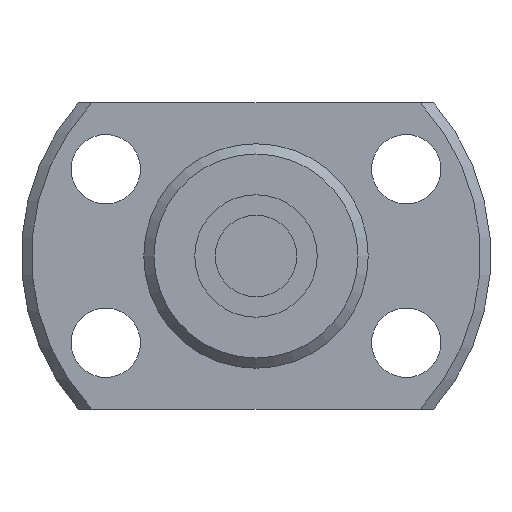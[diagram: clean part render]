
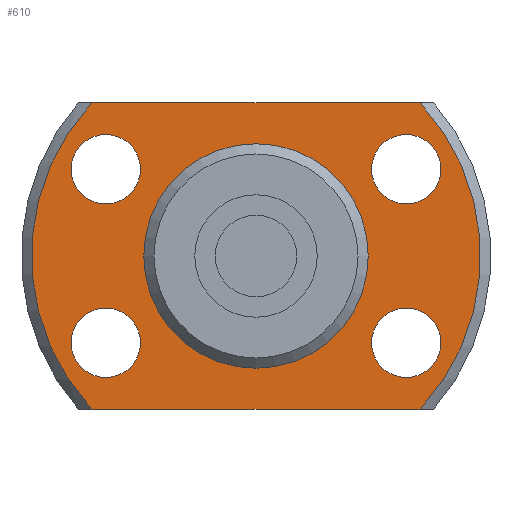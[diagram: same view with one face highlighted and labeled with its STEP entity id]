
A CAD part, left-side view. The second image highlights one B-rep face of the part: STEP entity #610.
In plain terms, the highlighted planar face has unit normal (-1, 0, 0) as drawn and (1, 0, 0) by its records, which use the part's own axes.
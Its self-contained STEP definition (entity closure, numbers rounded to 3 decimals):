
#59=LINE('',#1081,#75);
#60=LINE('',#1083,#76);
#75=VECTOR('',#895,1000.);
#76=VECTOR('',#896,1000.);
#186=ORIENTED_EDGE('',*,*,#285,.T.);
#187=ORIENTED_EDGE('',*,*,#263,.T.);
#188=ORIENTED_EDGE('',*,*,#286,.T.);
#189=ORIENTED_EDGE('',*,*,#287,.T.);
#190=ORIENTED_EDGE('',*,*,#288,.F.);
#191=ORIENTED_EDGE('',*,*,#289,.F.);
#192=ORIENTED_EDGE('',*,*,#290,.F.);
#193=ORIENTED_EDGE('',*,*,#291,.F.);
#194=ORIENTED_EDGE('',*,*,#284,.F.);
#263=EDGE_CURVE('',#325,#327,#377,.T.);
#284=EDGE_CURVE('',#346,#346,#392,.T.);
#285=EDGE_CURVE('',#347,#325,#59,.T.);
#286=EDGE_CURVE('',#327,#348,#60,.T.);
#287=EDGE_CURVE('',#348,#347,#393,.T.);
#288=EDGE_CURVE('',#349,#349,#394,.T.);
#289=EDGE_CURVE('',#350,#350,#395,.T.);
#290=EDGE_CURVE('',#351,#351,#396,.T.);
#291=EDGE_CURVE('',#352,#352,#397,.T.);
#325=VERTEX_POINT('',#1016);
#327=VERTEX_POINT('',#1023);
#346=VERTEX_POINT('',#1079);
#347=VERTEX_POINT('',#1082);
#348=VERTEX_POINT('',#1084);
#349=VERTEX_POINT('',#1087);
#350=VERTEX_POINT('',#1089);
#351=VERTEX_POINT('',#1091);
#352=VERTEX_POINT('',#1093);
#377=CIRCLE('',#693,11.);
#392=CIRCLE('',#717,5.3);
#393=CIRCLE('',#719,11.);
#394=CIRCLE('',#720,1.7);
#395=CIRCLE('',#721,1.7);
#396=CIRCLE('',#722,1.7);
#397=CIRCLE('',#723,1.7);
#460=EDGE_LOOP('',(#186,#187,#188,#189));
#461=EDGE_LOOP('',(#190));
#462=EDGE_LOOP('',(#191));
#463=EDGE_LOOP('',(#192));
#464=EDGE_LOOP('',(#193));
#465=EDGE_LOOP('',(#194));
#540=FACE_BOUND('',#460,.T.);
#541=FACE_BOUND('',#461,.T.);
#542=FACE_BOUND('',#462,.T.);
#543=FACE_BOUND('',#463,.T.);
#544=FACE_BOUND('',#464,.T.);
#545=FACE_BOUND('',#465,.T.);
#574=PLANE('',#718);
#610=ADVANCED_FACE('',(#540,#541,#542,#543,#544,#545),#574,.T.);
#693=AXIS2_PLACEMENT_3D('',#1024,#839,#840);
#717=AXIS2_PLACEMENT_3D('',#1078,#891,#892);
#718=AXIS2_PLACEMENT_3D('',#1080,#893,#894);
#719=AXIS2_PLACEMENT_3D('',#1085,#897,#898);
#720=AXIS2_PLACEMENT_3D('',#1086,#899,#900);
#721=AXIS2_PLACEMENT_3D('',#1088,#901,#902);
#722=AXIS2_PLACEMENT_3D('',#1090,#903,#904);
#723=AXIS2_PLACEMENT_3D('',#1092,#905,#906);
#839=DIRECTION('',(1.,0.,0.));
#840=DIRECTION('',(0.,0.,-1.));
#891=DIRECTION('',(1.,0.,0.));
#892=DIRECTION('',(0.,0.,-1.));
#893=DIRECTION('',(1.,0.,0.));
#894=DIRECTION('',(0.,0.,-1.));
#895=DIRECTION('',(0.,-1.,0.));
#896=DIRECTION('',(0.,1.,0.));
#897=DIRECTION('',(1.,0.,0.));
#898=DIRECTION('',(0.,0.,-1.));
#899=DIRECTION('',(1.,0.,0.));
#900=DIRECTION('',(0.,0.,-1.));
#901=DIRECTION('',(1.,0.,0.));
#902=DIRECTION('',(0.,0.,-1.));
#903=DIRECTION('',(1.,0.,0.));
#904=DIRECTION('',(0.,0.,-1.));
#905=DIRECTION('',(1.,0.,0.));
#906=DIRECTION('',(0.,0.,-1.));
#1016=CARTESIAN_POINT('',(3.5,-8.047,7.5));
#1023=CARTESIAN_POINT('',(3.5,-8.047,-7.5));
#1024=CARTESIAN_POINT('',(3.5,0.,0.));
#1078=CARTESIAN_POINT('',(3.5,0.,0.));
#1079=CARTESIAN_POINT('',(3.5,0.,-5.3));
#1080=CARTESIAN_POINT('',(3.5,5.3,0.));
#1081=CARTESIAN_POINT('',(3.5,11.5,7.5));
#1082=CARTESIAN_POINT('',(3.5,8.047,7.5));
#1083=CARTESIAN_POINT('',(3.5,-11.5,-7.5));
#1084=CARTESIAN_POINT('',(3.5,8.047,-7.5));
#1085=CARTESIAN_POINT('',(3.5,0.,0.));
#1086=CARTESIAN_POINT('',(3.5,7.361,4.25));
#1087=CARTESIAN_POINT('',(3.5,7.361,2.55));
#1088=CARTESIAN_POINT('',(3.5,-7.361,4.25));
#1089=CARTESIAN_POINT('',(3.5,-7.361,2.55));
#1090=CARTESIAN_POINT('',(3.5,-7.361,-4.25));
#1091=CARTESIAN_POINT('',(3.5,-7.361,-5.95));
#1092=CARTESIAN_POINT('',(3.5,7.361,-4.25));
#1093=CARTESIAN_POINT('',(3.5,7.361,-5.95));
